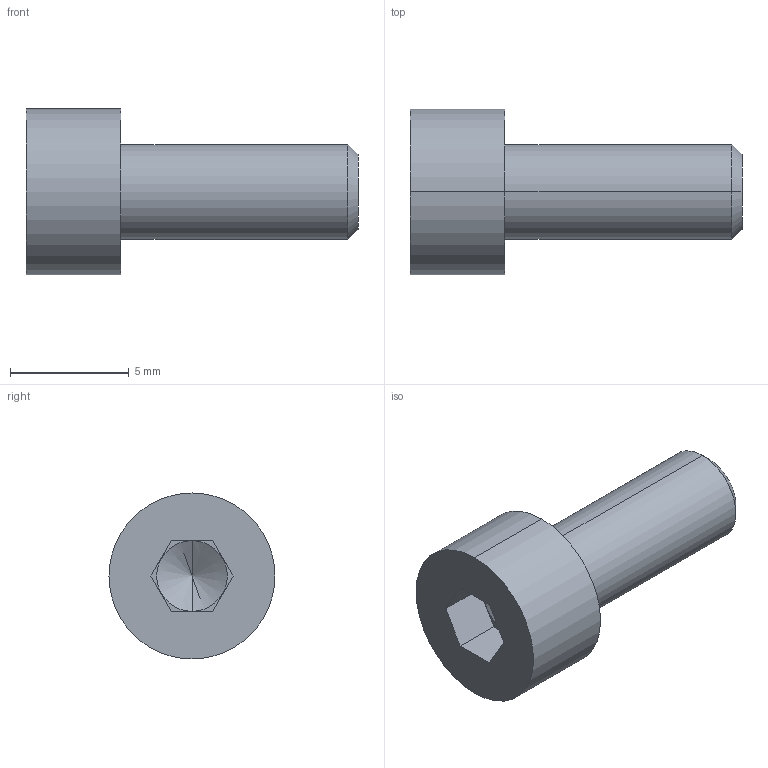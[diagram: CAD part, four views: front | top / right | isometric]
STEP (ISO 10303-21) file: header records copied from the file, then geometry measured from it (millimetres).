
FILE_DESCRIPTION (( 'STEP AP214' ), '1' );
FILE_NAME ('M4x10_DIN9121.STEP', '2016-05-08T07:29:30', ( '' ), ( '' ), 'SwSTEP 2.0', 'SolidWorks 2014', '' );
FILE_SCHEMA (( 'AUTOMOTIVE_DESIGN' ));
Length unit declared in the file: millimetre
Products named in the file (1): M4x10_DIN9121
Bounding box: 14 x 7 x 7 mm (x, y, z)
Volume: 260.9 mm3; surface area: 309.1 mm2
Topology: 1 solids, 1 shells, 18 faces, 40 edges, 25 vertices
Faces by surface type: plane 10, cone 4, cylinder 4
Entity records: 520 total; most frequent: DIRECTION 88, CARTESIAN_POINT 82, ORIENTED_EDGE 76, EDGE_CURVE 38, AXIS2_PLACEMENT_3D 31, VECTOR 26, LINE 26, VERTEX_POINT 25
